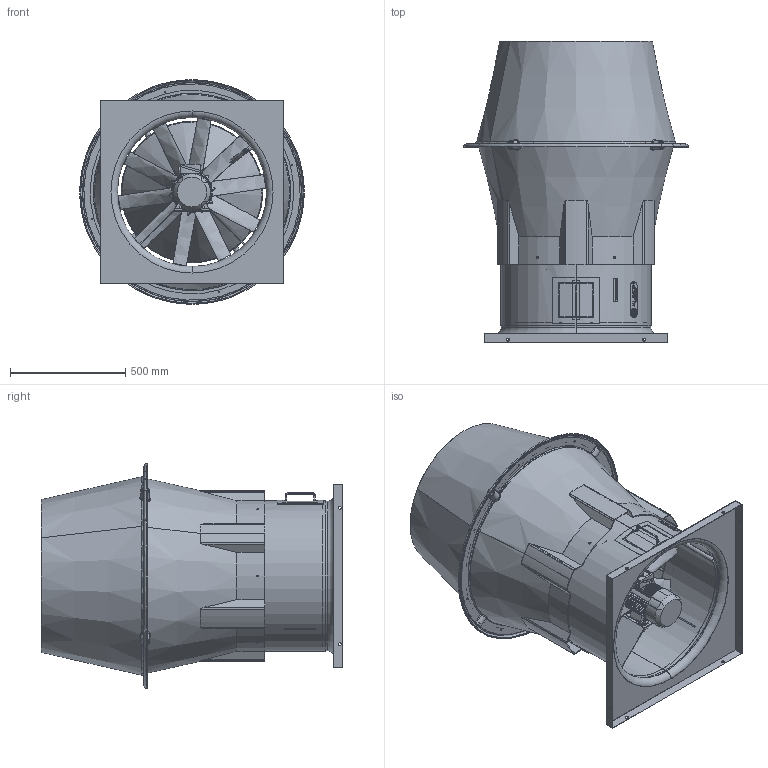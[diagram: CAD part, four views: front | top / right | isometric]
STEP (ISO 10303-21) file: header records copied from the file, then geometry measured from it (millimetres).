
FILE_DESCRIPTION (( 'STEP AP214' ), '1' );
FILE_NAME ('BPT 606-630.STEP', '2020-08-20T07:16:44', ( '' ), ( '' ), 'SwSTEP 2.0', 'SolidWorks 2016', '' );
FILE_SCHEMA (( 'AUTOMOTIVE_DESIGN' ));
Length unit declared in the file: millimetre
Products named in the file (23): 24000706000 - 640_10-10_40_PPG_3HL_19_6_42_A-122005; 1TZ9 A 80M-4 0 55kW B3 IE2; BPT 606; BRV 606 insp luke; Boss Bolt And Nuts - 640_10-10_40_PPG_3HL_19_6_42_A-122005_4; Boss Bolt And Nuts - 640_10-10_40_PPG_3HL_19_6_42_A-122005_3; Pil luftretning; Boss Bolt And Nuts - 640_10-10_40_PPG_3HL_19_6_42_A-122005_2; 20100700103 - 640_10-10_40_PPG_3HL_19_6_42_A-122005; BPT 606-630; Rør ø25x1.9x920; BB-Nut-Y63206000006_640_10-10_40_PPG_3HL_19_6_42_A-122005; BB-Bolt-Y62006200008_640_10-10_40_PPG_3HL_19_6_42_A-122005; Logo J.L. Bruvik BPT 606; Assem Jet topphatt ø660; D2010060001 - 640_10-10_40_PPG_3HL_19_6_42_A-122005; Boss Bolt And Nuts - 640_10-10_40_PPG_3HL_19_6_42_A-122005_5; Øvred del; Nedre del topphatt; Boss Bolt And Nuts - 640_10-10_40_PPG_3HL_19_6_42_A-122005; Reinoppsamler for topphatt ø660; 13000104075 - 640_10-10_40_PPG_3HL_19_6_42_A-122005; 640_10-10_40_PPG_3HL_19_6_42_A-122005
Assembly tree (40 placements, depth 4):
  BPT 606-630
    BPT 606
    1TZ9 A 80M-4 0 55kW B3 IE2
    BRV 606 insp luke
    640_10-10_40_PPG_3HL_19_6_42_A-122005
      20100700103 - 640_10-10_40_PPG_3HL_19_6_42_A-122005
      D2010060001 - 640_10-10_40_PPG_3HL_19_6_42_A-122005
      13000104075 - 640_10-10_40_PPG_3HL_19_6_42_A-122005  x10
      24000706000 - 640_10-10_40_PPG_3HL_19_6_42_A-122005
      Boss Bolt And Nuts - 640_10-10_40_PPG_3HL_19_6_42_A-122005
        BB-Bolt-Y62006200008_640_10-10_40_PPG_3HL_19_6_42_A-122005
        BB-Nut-Y63206000006_640_10-10_40_PPG_3HL_19_6_42_A-122005
      Boss Bolt And Nuts - 640_10-10_40_PPG_3HL_19_6_42_A-122005_2
        BB-Bolt-Y62006200008_640_10-10_40_PPG_3HL_19_6_42_A-122005
        BB-Nut-Y63206000006_640_10-10_40_PPG_3HL_19_6_42_A-122005
      Boss Bolt And Nuts - 640_10-10_40_PPG_3HL_19_6_42_A-122005_3
        BB-Bolt-Y62006200008_640_10-10_40_PPG_3HL_19_6_42_A-122005
        BB-Nut-Y63206000006_640_10-10_40_PPG_3HL_19_6_42_A-122005
      Boss Bolt And Nuts - 640_10-10_40_PPG_3HL_19_6_42_A-122005_4
        BB-Bolt-Y62006200008_640_10-10_40_PPG_3HL_19_6_42_A-122005
        BB-Nut-Y63206000006_640_10-10_40_PPG_3HL_19_6_42_A-122005
      Boss Bolt And Nuts - 640_10-10_40_PPG_3HL_19_6_42_A-122005_5
        BB-Bolt-Y62006200008_640_10-10_40_PPG_3HL_19_6_42_A-122005
        BB-Nut-Y63206000006_640_10-10_40_PPG_3HL_19_6_42_A-122005
    Assem Jet topphatt ø660
      Øvred del
      Rør ø25x1.9x920  x2
      Reinoppsamler for topphatt ø660
      Nedre del topphatt
    Logo J.L. Bruvik BPT 606
    Pil luftretning
Bounding box: 975 x 1310 x 975 mm (x, y, z)
Volume: 20027282 mm3; surface area: 10224438.5 mm2
Topology: 39 solids, 39 shells, 2394 faces, 6211 edges, 3965 vertices
Faces by surface type: plane 981, cylinder 488, bspline 451, cone 414, torus 47, sphere 13
Entity records: 92729 total; most frequent: CARTESIAN_POINT 43446, ORIENTED_EDGE 9768, DIRECTION 8479, EDGE_CURVE 4884, VERTEX_POINT 3199, AXIS2_PLACEMENT_3D 3160, LINE 2159, VECTOR 2159
